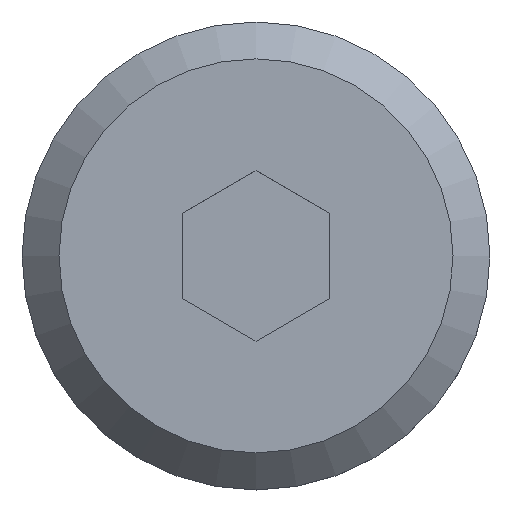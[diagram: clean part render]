
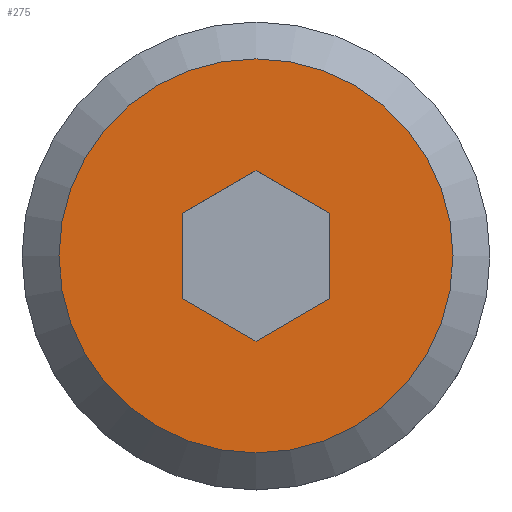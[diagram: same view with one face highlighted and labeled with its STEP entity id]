
A CAD part, top view. The second image highlights one B-rep face of the part: STEP entity #275.
In plain terms, the highlighted planar face has unit normal (0, 0, 1).
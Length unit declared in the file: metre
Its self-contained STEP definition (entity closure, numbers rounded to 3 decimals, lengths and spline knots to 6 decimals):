
#20=PLANE('',#311);
#42=CIRCLE('',#310,0.004);
#78=ORIENTED_EDGE('',*,*,#132,.F.);
#79=ORIENTED_EDGE('',*,*,#133,.T.);
#80=ORIENTED_EDGE('',*,*,#134,.T.);
#81=ORIENTED_EDGE('',*,*,#135,.T.);
#82=ORIENTED_EDGE('',*,*,#136,.T.);
#83=ORIENTED_EDGE('',*,*,#137,.T.);
#84=ORIENTED_EDGE('',*,*,#138,.T.);
#132=EDGE_CURVE('',#163,#163,#42,.T.);
#133=EDGE_CURVE('',#164,#165,#178,.T.);
#134=EDGE_CURVE('',#165,#166,#179,.T.);
#135=EDGE_CURVE('',#166,#167,#180,.T.);
#136=EDGE_CURVE('',#167,#168,#181,.T.);
#137=EDGE_CURVE('',#168,#169,#182,.T.);
#138=EDGE_CURVE('',#169,#164,#183,.T.);
#163=VERTEX_POINT('',#8098);
#164=VERTEX_POINT('',#8101);
#165=VERTEX_POINT('',#8102);
#166=VERTEX_POINT('',#8104);
#167=VERTEX_POINT('',#8106);
#168=VERTEX_POINT('',#8108);
#169=VERTEX_POINT('',#8110);
#178=LINE('',#8100,#198);
#179=LINE('',#8103,#199);
#180=LINE('',#8105,#200);
#181=LINE('',#8107,#201);
#182=LINE('',#8109,#202);
#183=LINE('',#8111,#203);
#198=VECTOR('',#355,1.);
#199=VECTOR('',#356,1.);
#200=VECTOR('',#357,1.);
#201=VECTOR('',#358,1.);
#202=VECTOR('',#359,1.);
#203=VECTOR('',#360,1.);
#230=EDGE_LOOP('',(#78));
#231=EDGE_LOOP('',(#79,#80,#81,#82,#83,#84));
#253=FACE_BOUND('',#230,.T.);
#254=FACE_BOUND('',#231,.T.);
#275=ADVANCED_FACE('',(#253,#254),#20,.F.);
#310=AXIS2_PLACEMENT_3D('',#8097,#351,#352);
#311=AXIS2_PLACEMENT_3D('',#8099,#353,#354);
#351=DIRECTION('',(0.,0.,-1.));
#352=DIRECTION('',(0.,-1.,0.));
#353=DIRECTION('',(0.,0.,-1.));
#354=DIRECTION('',(-1.,0.,0.));
#355=DIRECTION('',(0.,-1.,0.));
#356=DIRECTION('',(-0.866,-0.5,0.));
#357=DIRECTION('',(-0.866,0.5,0.));
#358=DIRECTION('',(0.,1.,0.));
#359=DIRECTION('',(0.866,0.5,0.));
#360=DIRECTION('',(0.866,-0.5,0.));
#8097=CARTESIAN_POINT('',(-0.040677,0.057839,0.223073));
#8098=CARTESIAN_POINT('',(-0.040677,0.053839,0.223073));
#8099=CARTESIAN_POINT('',(-0.040677,0.053089,0.223073));
#8100=CARTESIAN_POINT('',(-0.039177,0.058705,0.223073));
#8101=CARTESIAN_POINT('',(-0.039177,0.058705,0.223073));
#8102=CARTESIAN_POINT('',(-0.039177,0.056973,0.223073));
#8103=CARTESIAN_POINT('',(-0.039177,0.056973,0.223073));
#8104=CARTESIAN_POINT('',(-0.040677,0.056107,0.223073));
#8105=CARTESIAN_POINT('',(-0.040677,0.056107,0.223073));
#8106=CARTESIAN_POINT('',(-0.042177,0.056973,0.223073));
#8107=CARTESIAN_POINT('',(-0.042177,0.056973,0.223073));
#8108=CARTESIAN_POINT('',(-0.042177,0.058705,0.223073));
#8109=CARTESIAN_POINT('',(-0.042177,0.058705,0.223073));
#8110=CARTESIAN_POINT('',(-0.040677,0.059571,0.223073));
#8111=CARTESIAN_POINT('',(-0.040677,0.059571,0.223073));
